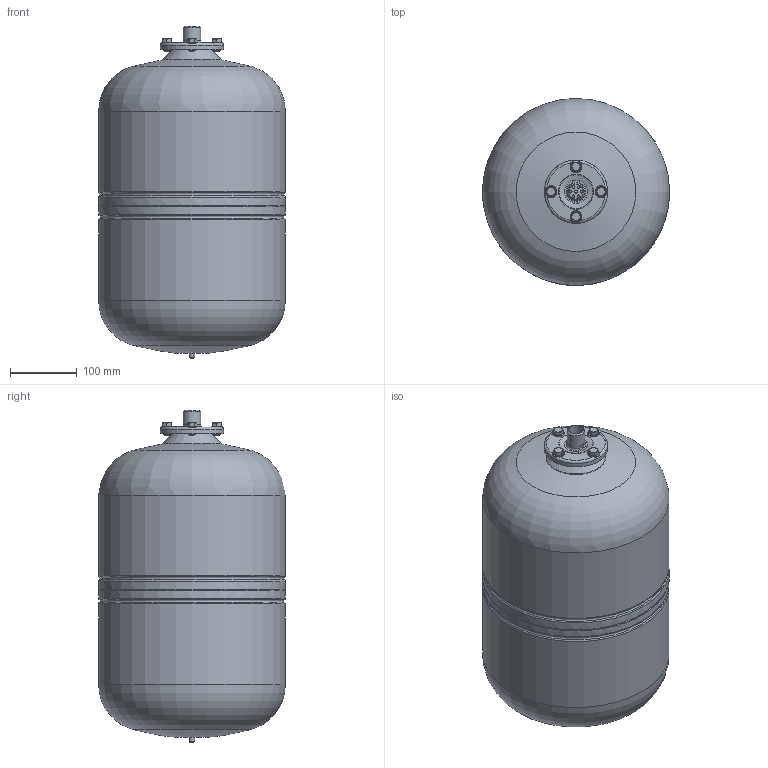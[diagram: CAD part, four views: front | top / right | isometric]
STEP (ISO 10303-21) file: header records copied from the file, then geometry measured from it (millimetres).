
FILE_DESCRIPTION(('STEP AP214'), '1');
FILE_NAME('WRV-24(ôë.90)', '', ('UNSPECIFIED'), ('UNSPECIFIED'), 'ASCON STEP Converter 1.3', 'ASCON Math Kernel', '');
FILE_SCHEMA(('AUTOMOTIVE_DESIGN { 1 0 10303 214 3 1 1}'));
Length unit declared in the file: millimetre
Bounding box: 280.54 x 280.5 x 498 mm (x, y, z)
Volume: 24772553.3 mm3; surface area: 462134.9 mm2
Topology: 1 solids, 9 shells, 225 faces, 538 edges, 354 vertices
Faces by surface type: plane 118, cylinder 37, cone 27, torus 25, bspline 16, sphere 2
Full cylindrical faces by diameter (mm): 4 x7, 5.5 x1, 8 x9, 9 x4, 10.6 x4, 21.2 x1, 26.442 x1, 26.8 x1, 95 x1, 280 x4
Entity records: 12566 total; most frequent: CARTESIAN_POINT 5748, DIRECTION 1060, ORIENTED_EDGE 932, AXIS2_PLACEMENT_3D 479, EDGE_CURVE 466, VERTEX_POINT 352, EDGE_LOOP 326, FACE_BOUND 302
